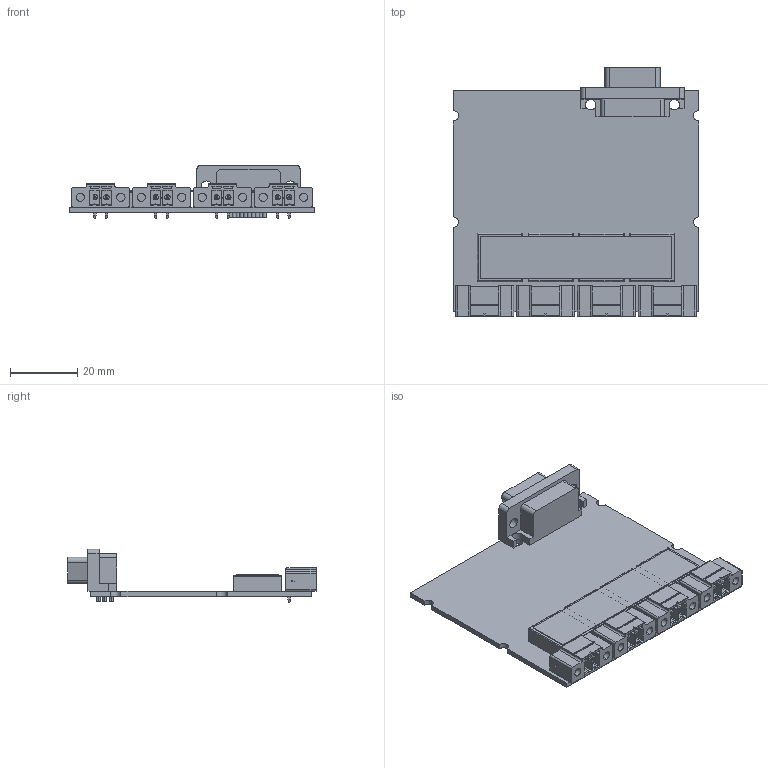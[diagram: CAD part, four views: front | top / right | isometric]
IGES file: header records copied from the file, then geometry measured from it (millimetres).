
Start section:  PTC IGES file: cd_ni_9229e.igs
Global section: file name: cd_ni_9229e.igs; native system: Pro/ENGINEER by Parametric Technology Corporation; preprocessor: 2006080; author: scarrasc; organization: Unknown; date: 100205.124833; units: inch
Bounding box: 73.38 x 74.07 x 15.95 mm (x, y, z)
Surface area: 16689.4 mm2 (no closed solid volume)
Topology: 0 solids, 0 shells, 842 faces, 4356 edges, 4348 vertices
Faces by surface type: bspline 580, revolution 262
